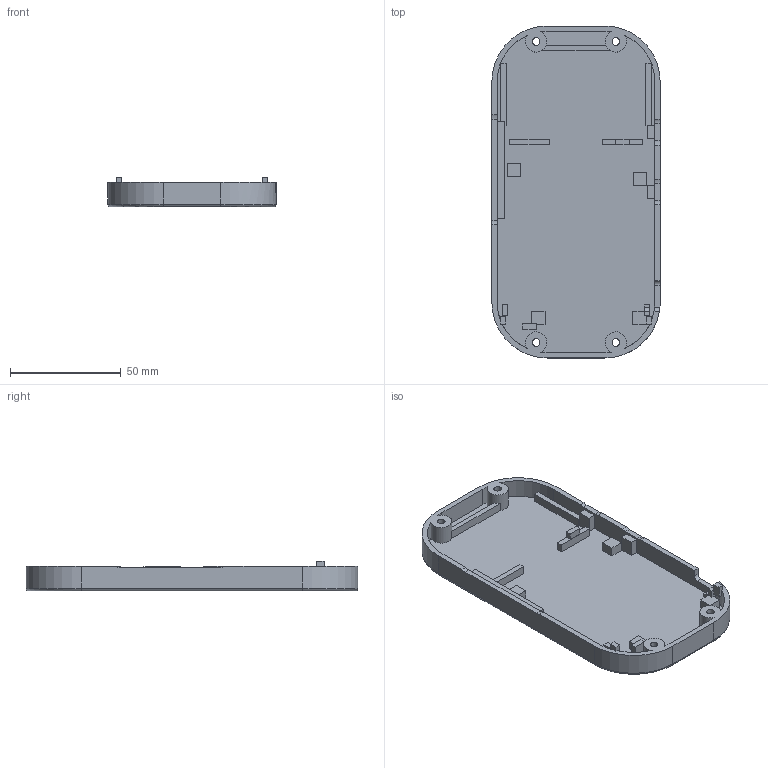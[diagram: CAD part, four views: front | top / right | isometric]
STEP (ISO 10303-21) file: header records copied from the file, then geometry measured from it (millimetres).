
FILE_DESCRIPTION(/* description */ (''),/* implementation_level */ '2;1');
FILE_NAME(/* name */ '02_Rear_Cover.step',/* time_stamp */ '2026-09-16T19:15:03-07:00',/* author */ (''),/* organization */ (''),/* preprocessor_version */ 'ST-DEVELOPER v20.1',/* originating_system */ 'Autodesk Translation Framework v15.8.0.0',/* authorisation */ '');
FILE_SCHEMA (('AUTOMOTIVE_DESIGN { 1 0 10303 214 3 1 1 }'));
Length unit declared in the file: centimetre
Products named in the file (1): 2026-09-16-19-15-03-398
Bounding box: 76 x 150 x 13.4 mm (x, y, z)
Volume: 39130.7 mm3; surface area: 32298.5 mm2
Topology: 1 solids, 1 shells, 156 faces, 420 edges, 277 vertices
Faces by surface type: plane 115, cylinder 37, torus 4
Full cylindrical faces by diameter (mm): 3.4 x4, 6.2 x4
Entity records: 4928 total; most frequent: CARTESIAN_POINT 872, ORIENTED_EDGE 840, DIRECTION 818, EDGE_CURVE 420, LINE 332, VECTOR 332, VERTEX_POINT 277, AXIS2_PLACEMENT_3D 243
